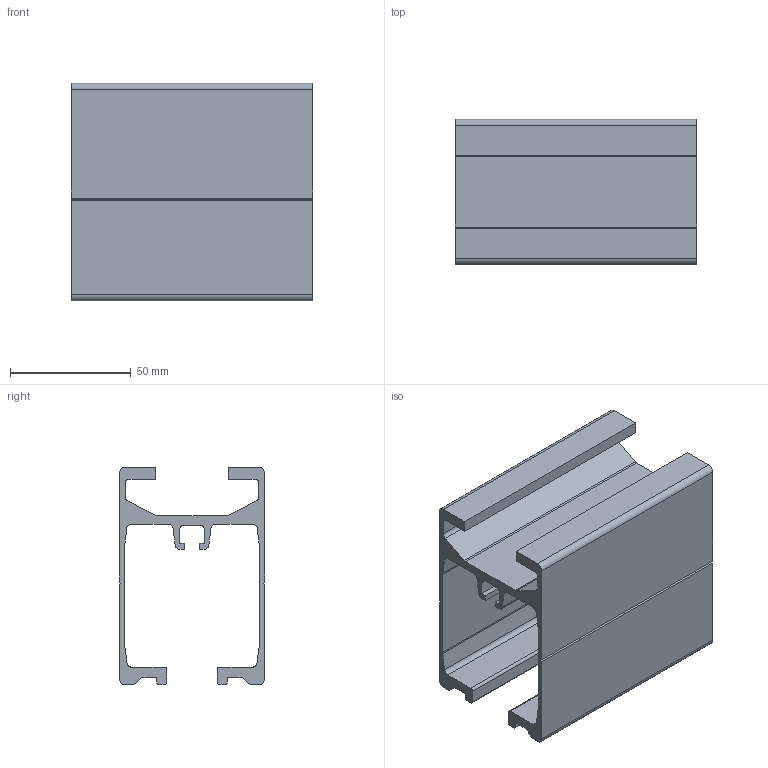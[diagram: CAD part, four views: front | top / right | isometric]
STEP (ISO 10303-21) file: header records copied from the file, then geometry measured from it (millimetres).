
FILE_DESCRIPTION (( 'STEP AP214' ), '1' );
FILE_NAME ('900.090.060.STEP', '2020-07-23T09:03:00', ( '' ), ( '' ), 'SwSTEP 2.0', 'SolidWorks 2018', '' );
FILE_SCHEMA (( 'AUTOMOTIVE_DESIGN' ));
Length unit declared in the file: millimetre
Products named in the file (1): 900.090.060
Bounding box: 100 x 60 x 90 mm (x, y, z)
Volume: 108986.5 mm3; surface area: 63990.8 mm2
Topology: 1 solids, 1 shells, 90 faces, 264 edges, 176 vertices
Faces by surface type: plane 54, cylinder 36
Entity records: 3034 total; most frequent: CARTESIAN_POINT 531, ORIENTED_EDGE 528, DIRECTION 518, EDGE_CURVE 264, VECTOR 192, LINE 192, VERTEX_POINT 176, AXIS2_PLACEMENT_3D 163
